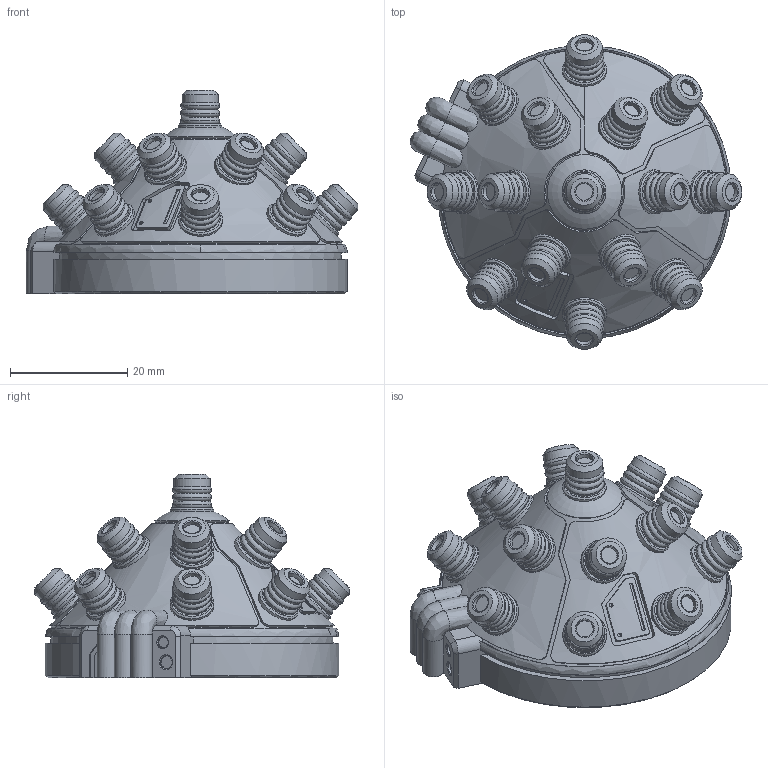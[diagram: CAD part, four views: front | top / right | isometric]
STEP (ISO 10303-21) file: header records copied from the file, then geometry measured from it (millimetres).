
FILE_DESCRIPTION(('HOOPS Exchange Step'),'2;1');
FILE_NAME('C:\Users\graig\Desktop\Death Breaker 3D Files\STP\Pylon.stp','2026-09-15T14:20:38+01:00',('graig'),('Unknown organisation'),'HOOPS Exchange 2025.8','HOOPS Exchange','Unknown authorisation');
FILE_SCHEMA( ('AP203_CONFIGURATION_CONTROLLED_3D_DESIGN_OF_MECHANICAL_PARTS_AND_ASSEMBLIES_MIM_LF') );
Length unit declared in the file: millimetre
Products named in the file (1): root
Bounding box: 56.5 x 53.61 x 34.73 mm (x, y, z)
Volume: 35491.7 mm3; surface area: 10417.2 mm2
Topology: 1 solids, 16 shells, 500 faces, 1207 edges, 792 vertices
Faces by surface type: torus 141, plane 117, bspline 109, cylinder 59, cone 57, extrusion 17
Full cylindrical faces by diameter (mm): 1.913 x1, 2.218 x1, 2.907 x15, 6.1 x1, 6.167 x15, 7.477 x15
Entity records: 37536 total; most frequent: CARTESIAN_POINT 26371, ORIENTED_EDGE 2414, DIRECTION 2131, EDGE_CURVE 1207, AXIS2_PLACEMENT_3D 933, VERTEX_POINT 792, EDGE_LOOP 585, FACE_BOUND 585
